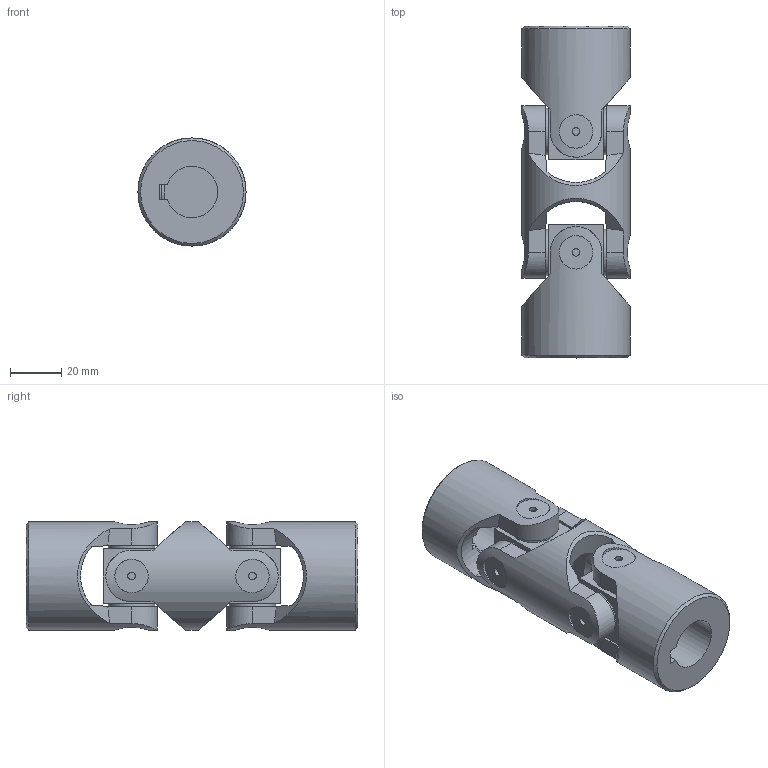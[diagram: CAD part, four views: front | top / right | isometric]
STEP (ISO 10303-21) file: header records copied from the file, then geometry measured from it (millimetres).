
FILE_DESCRIPTION(/* description */ (''),/* implementation_level */ '2;1');
FILE_NAME(/* name */ '\\SRV2016\Societa\Stefano\Disegni 3D\00Catalogo 3D\02Doppi GD-GBD\SG0D202C.stp',/* time_stamp */ '2021-11-23T12:25:42+01:00',/* author */ ('acquisti'),/* organization */ (''),/* preprocessor_version */ 'ST-DEVELOPER v15.6',/* originating_system */ 'Autodesk Inventor 2015',/* authorisation */ '');
FILE_SCHEMA (('AUTOMOTIVE_DESIGN { 1 0 10303 214 3 1 1 }'));
Length unit declared in the file: millimetre
Products named in the file (4): 3G MOD; 3G SFE; 3G MOC; Ø42_3GD-00_SG0D2000
Assembly tree (5 placements, depth 2):
  Ø42_3GD-00_SG0D2000
    3G MOD
    3G SFE  x2
    3G MOC  x2
Bounding box: 42 x 129 x 42 mm (x, y, z)
Volume: 116418.6 mm3; surface area: 34874.3 mm2
Topology: 5 solids, 5 shells, 167 faces, 399 edges, 262 vertices
Faces by surface type: plane 76, cylinder 65, cone 22, torus 4
Full cylindrical faces by diameter (mm): 3 x8, 18 x8, 22 x2, 42 x3
Entity records: 3902 total; most frequent: CARTESIAN_POINT 1352, ORIENTED_EDGE 512, DIRECTION 485, EDGE_CURVE 256, AXIS2_PLACEMENT_3D 214, VERTEX_POINT 180, EDGE_LOOP 152, FACE_OUTER_BOUND 115
